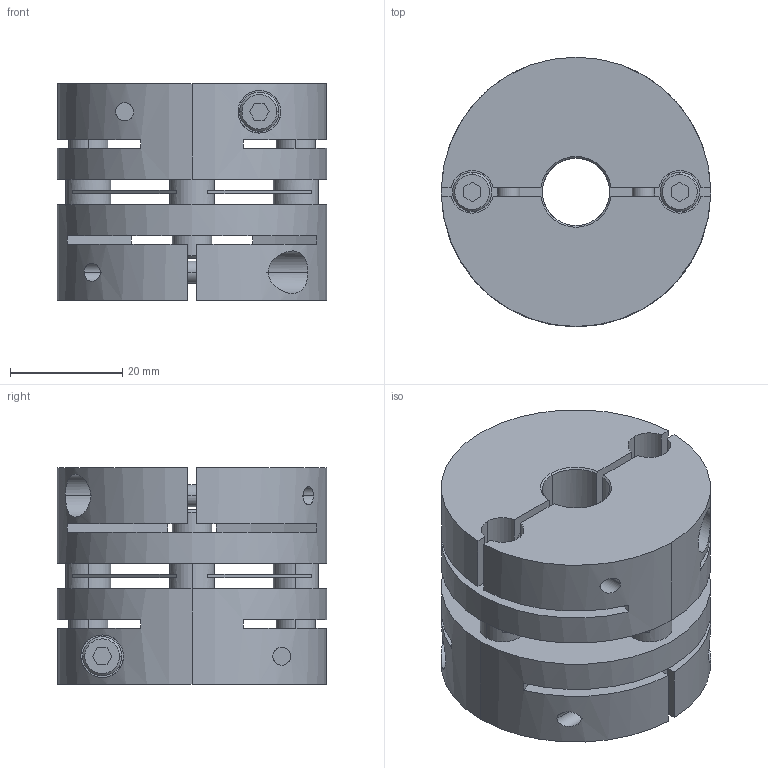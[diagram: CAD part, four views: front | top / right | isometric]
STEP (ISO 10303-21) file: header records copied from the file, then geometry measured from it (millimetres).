
FILE_DESCRIPTION((''),'2;1');
FILE_NAME('LAS-48C-12×24.stp','2011-08-09T16:57:31',(''),(''),'AutoCAD STEP 2000i','AutoCAD 2000i',', , ');
FILE_SCHEMA(('CONFIG_CONTROL_DESIGN'));
Length unit declared in the file: millimetre
Products named in the file (6): LAS-48C-12×19; 忣兜1; LA-4802-D19; LA-4802-D12-1; LA-4802-D12; LAS48-ITA
Assembly tree (5 placements, depth 2):
  LAS-48C-12×19
    忣兜1
    LA-4802-D19
    LA-4802-D12-1
    LA-4802-D12
    LAS48-ITA
Bounding box: 48 x 48 x 38.6 mm (x, y, z)
Volume: 46743.4 mm3; surface area: 21837.9 mm2
Topology: 1 solids, 1 shells, 224 faces, 600 edges, 392 vertices
Faces by surface type: plane 112, cylinder 84, cone 28
Entity records: 7841 total; most frequent: CARTESIAN_POINT 1878, DIRECTION 1256, ORIENTED_EDGE 1200, EDGE_CURVE 600, AXIS2_PLACEMENT_3D 458, VERTEX_POINT 392, VECTOR 340, LINE 340
